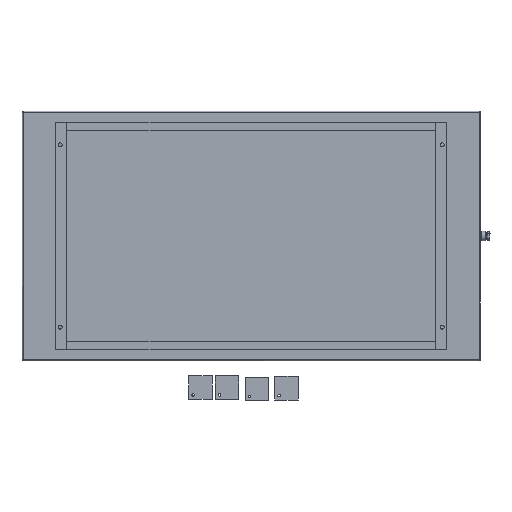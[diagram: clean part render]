
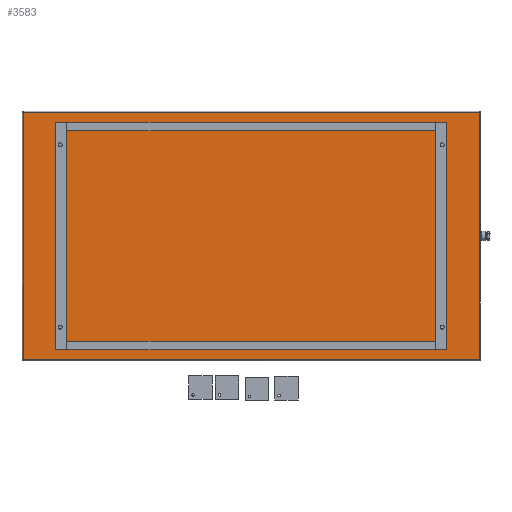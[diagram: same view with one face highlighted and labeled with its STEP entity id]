
A CAD part, front view. The second image highlights one B-rep face of the part: STEP entity #3583.
In plain terms, the highlighted planar face has unit normal (0, -1, 0).
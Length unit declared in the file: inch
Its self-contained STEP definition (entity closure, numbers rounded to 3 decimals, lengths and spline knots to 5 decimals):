
#39 = ORIENTED_EDGE ( 'NONE', *, *, #3075, .T. ) ;
#135 = CARTESIAN_POINT ( 'NONE',  ( 77.803, -0.1345, -0.197 ) ) ;
#285 = VERTEX_POINT ( 'NONE', #2751 ) ;
#357 = CARTESIAN_POINT ( 'NONE',  ( 77.86543, -0.1345, -0.197 ) ) ;
#381 = CARTESIAN_POINT ( 'NONE',  ( 0.197, -0.1345, -42.303 ) ) ;
#449 = EDGE_CURVE ( 'NONE', #1705, #1506, #3726, .T. ) ;
#642 = VECTOR ( 'NONE', #3025, 39.37008 ) ;
#690 = LINE ( 'NONE', #728, #1331 ) ;
#728 = CARTESIAN_POINT ( 'NONE',  ( 0.13457, -0.1345, -42.303 ) ) ;
#1009 = CARTESIAN_POINT ( 'NONE',  ( 77.803, -0.1345, -42.36543 ) ) ;
#1039 = VERTEX_POINT ( 'NONE', #381 ) ;
#1111 = ORIENTED_EDGE ( 'NONE', *, *, #449, .T. ) ;
#1158 = VECTOR ( 'NONE', #1940, 39.37008 ) ;
#1225 = DIRECTION ( 'NONE',  ( -1., 0., 0. ) ) ;
#1331 = VECTOR ( 'NONE', #2045, 39.37008 ) ;
#1454 = CARTESIAN_POINT ( 'NONE',  ( 0., -0.1345, 0. ) ) ;
#1506 = VERTEX_POINT ( 'NONE', #135 ) ;
#1656 = EDGE_CURVE ( 'NONE', #1506, #285, #2701, .T. ) ;
#1705 = VERTEX_POINT ( 'NONE', #3625 ) ;
#1885 = AXIS2_PLACEMENT_3D ( 'NONE', #1454, #3012, #2721 ) ;
#1940 = DIRECTION ( 'NONE',  ( 0., 0., -1. ) ) ;
#2045 = DIRECTION ( 'NONE',  ( 1., 0., 0. ) ) ;
#2136 = FACE_OUTER_BOUND ( 'NONE', #2745, .T. ) ;
#2234 = CARTESIAN_POINT ( 'NONE',  ( 0.197, -0.1345, -0.13457 ) ) ;
#2669 = ORIENTED_EDGE ( 'NONE', *, *, #1656, .T. ) ;
#2701 = LINE ( 'NONE', #357, #3252 ) ;
#2705 = PLANE ( 'NONE',  #1885 ) ;
#2721 = DIRECTION ( 'NONE',  ( 0., 0., -1. ) ) ;
#2745 = EDGE_LOOP ( 'NONE', ( #39, #1111, #2669, #3287 ) ) ;
#2751 = CARTESIAN_POINT ( 'NONE',  ( 0.197, -0.1345, -0.197 ) ) ;
#2819 = LINE ( 'NONE', #2234, #1158 ) ;
#3012 = DIRECTION ( 'NONE',  ( 0., -1., 0. ) ) ;
#3025 = DIRECTION ( 'NONE',  ( 0., 0., 1. ) ) ;
#3075 = EDGE_CURVE ( 'NONE', #1039, #1705, #690, .T. ) ;
#3248 = EDGE_CURVE ( 'NONE', #285, #1039, #2819, .T. ) ;
#3252 = VECTOR ( 'NONE', #1225, 39.37008 ) ;
#3287 = ORIENTED_EDGE ( 'NONE', *, *, #3248, .T. ) ;
#3583 = ADVANCED_FACE ( 'NONE', ( #2136 ), #2705, .T. ) ;
#3625 = CARTESIAN_POINT ( 'NONE',  ( 77.803, -0.1345, -42.303 ) ) ;
#3726 = LINE ( 'NONE', #1009, #642 ) ;
